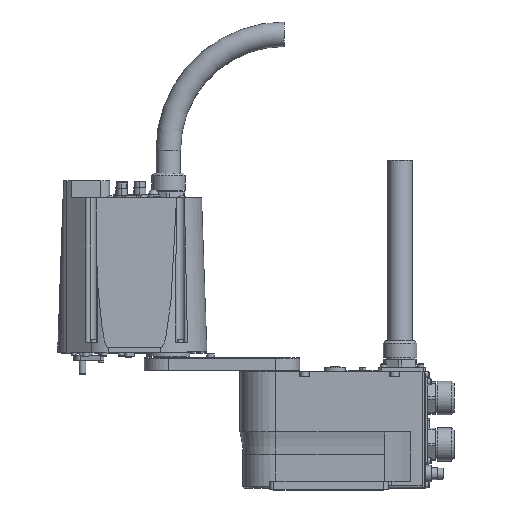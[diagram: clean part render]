
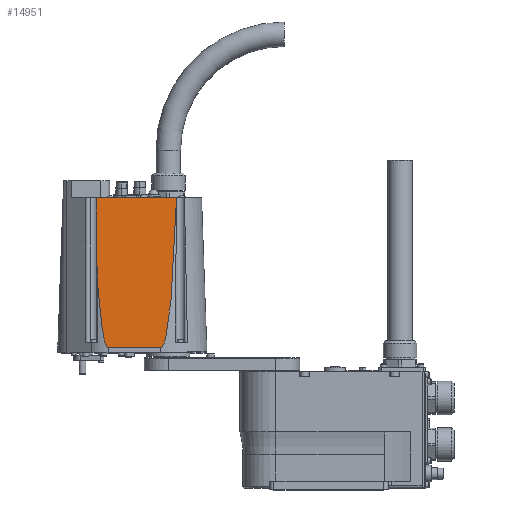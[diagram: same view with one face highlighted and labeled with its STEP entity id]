
A CAD part, top view. The second image highlights one B-rep face of the part: STEP entity #14951.
In plain terms, the highlighted planar face has unit normal (0, 0.035, 0.999).
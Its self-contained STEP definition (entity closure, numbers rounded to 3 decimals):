
#8867 = VERTEX_POINT( '', #23845 );
#9275 = EDGE_CURVE( '', #15751, #9583, #24293, .T. );
#9583 = VERTEX_POINT( '', #24637 );
#10779 = VERTEX_POINT( '', #25972 );
#12127 = VERTEX_POINT( '', #27489 );
#14951 = ADVANCED_FACE( '', ( #30701 ), #30702, .F. );
#15635 = EDGE_CURVE( '', #9583, #20321, #31458, .T. );
#15703 = EDGE_CURVE( '', #10779, #15751, #31531, .T. );
#15751 = VERTEX_POINT( '', #31581 );
#16685 = EDGE_CURVE( '', #8867, #12127, #32643, .T. );
#18293 = EDGE_CURVE( '', #12127, #20321, #34455, .T. );
#20321 = VERTEX_POINT( '', #36709 );
#21907 = EDGE_CURVE( '', #10779, #8867, #38496, .T. );
#23845 = CARTESIAN_POINT( '', ( -208.939, 338.3, 47.896 ) );
#24293 = LINE( '', #41678, #41679 );
#24637 = CARTESIAN_POINT( '', ( -195.1, 163.5, 54. ) );
#25972 = CARTESIAN_POINT( '', ( -115.359, 338.3, 47.896 ) );
#27489 = CARTESIAN_POINT( '', ( -207.1, 241.074, 51.291 ) );
#30701 = FACE_OUTER_BOUND( '', #50599, .T. );
#30702 = PLANE( '', #50600 );
#31458 = ELLIPSE( '', #51602, 859.611, 30. );
#31531 = ELLIPSE( '', #51697, 1548.243, 54. );
#31581 = CARTESIAN_POINT( '', ( -134.21, 163.5, 54. ) );
#32643 = ELLIPSE( '', #53214, 85.961, 3. );
#34455 = LINE( '', #55638, #55639 );
#36709 = CARTESIAN_POINT( '', ( -207.1, 235.221, 51.495 ) );
#38496 = LINE( '', #61141, #61142 );
#41678 = CARTESIAN_POINT( '', ( -75.1, 163.5, 54. ) );
#41679 = VECTOR( '', #63964, 1. );
#50599 = EDGE_LOOP( '', ( #71544, #71545, #71546, #71547, #71548, #71549 ) );
#50600 = AXIS2_PLACEMENT_3D( '', #71550, #71551, #71552 );
#51602 = AXIS2_PLACEMENT_3D( '', #72384, #72385, #72386 );
#51697 = AXIS2_PLACEMENT_3D( '', #72448, #72449, #72450 );
#53214 = AXIS2_PLACEMENT_3D( '', #73713, #73714, #73715 );
#55638 = CARTESIAN_POINT( '', ( -207.1, 163.544, 53.998 ) );
#55639 = VECTOR( '', #75700, 1. );
#61141 = CARTESIAN_POINT( '', ( -120.6, 338.3, 47.896 ) );
#61142 = VECTOR( '', #80418, 1. );
#63964 = DIRECTION( '', ( -1., 0., 0. ) );
#71544 = ORIENTED_EDGE( '', *, *, #16685, .T. );
#71545 = ORIENTED_EDGE( '', *, *, #18293, .T. );
#71546 = ORIENTED_EDGE( '', *, *, #15635, .F. );
#71547 = ORIENTED_EDGE( '', *, *, #9275, .F. );
#71548 = ORIENTED_EDGE( '', *, *, #15703, .F. );
#71549 = ORIENTED_EDGE( '', *, *, #21907, .T. );
#71550 = CARTESIAN_POINT( '', ( -16.2, 157.5, 54.21 ) );
#71551 = DIRECTION( '', ( 0., -0.035, -0.999 ) );
#71552 = DIRECTION( '', ( 0., -0.999, 0.035 ) );
#72384 = CARTESIAN_POINT( '', ( -195.1, 1022.588, 24. ) );
#72385 = DIRECTION( '', ( 0., -0.035, -0.999 ) );
#72386 = DIRECTION( '', ( 0., -0.999, 0.035 ) );
#72448 = CARTESIAN_POINT( '', ( -188.21, 1709.858, 0. ) );
#72449 = DIRECTION( '', ( 0., -0.035, -0.999 ) );
#72450 = DIRECTION( '', ( 0.035, -0.999, 0.035 ) );
#73713 = CARTESIAN_POINT( '', ( -206., 320.999, 48.5 ) );
#73714 = DIRECTION( '', ( 0., 0.035, 0.999 ) );
#73715 = DIRECTION( '', ( 0., -0.999, 0.035 ) );
#75700 = DIRECTION( '', ( 0., -0.999, 0.035 ) );
#80418 = DIRECTION( '', ( -1., 0., 0. ) );
